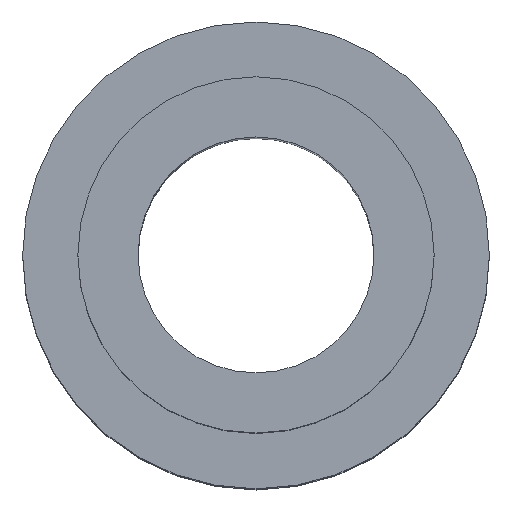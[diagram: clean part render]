
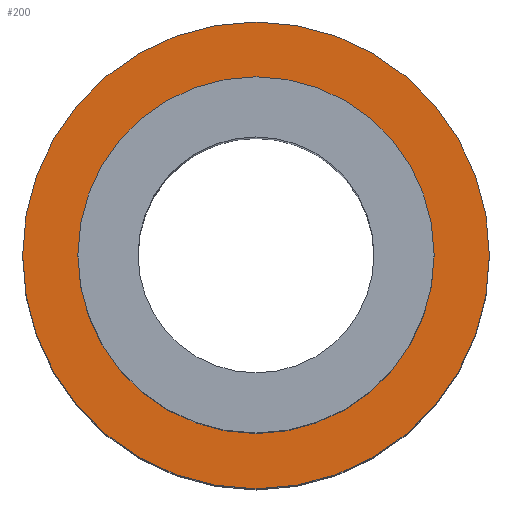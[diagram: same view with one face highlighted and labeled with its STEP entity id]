
A CAD part, top view. The second image highlights one B-rep face of the part: STEP entity #200.
In plain terms, the highlighted planar face has unit normal (0, 0, 1).
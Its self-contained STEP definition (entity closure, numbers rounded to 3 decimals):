
#40=FACE_BOUND('',#83,.T.);
#47=PLANE('',#253);
#61=FACE_OUTER_BOUND('',#82,.T.);
#82=EDGE_LOOP('',(#180));
#83=EDGE_LOOP('',(#181));
#100=CIRCLE('',#252,14.5);
#101=CIRCLE('',#254,19.);
#115=VERTEX_POINT('',#398);
#116=VERTEX_POINT('',#402);
#136=EDGE_CURVE('',#115,#115,#100,.T.);
#138=EDGE_CURVE('',#116,#116,#101,.T.);
#180=ORIENTED_EDGE('',*,*,#138,.F.);
#181=ORIENTED_EDGE('',*,*,#136,.T.);
#200=ADVANCED_FACE('',(#61,#40),#47,.T.);
#252=AXIS2_PLACEMENT_3D('',#399,#316,#317);
#253=AXIS2_PLACEMENT_3D('',#401,#319,#320);
#254=AXIS2_PLACEMENT_3D('',#403,#321,#322);
#316=DIRECTION('center_axis',(0.,0.,-1.));
#317=DIRECTION('ref_axis',(1.,0.,0.));
#319=DIRECTION('center_axis',(0.,0.,1.));
#320=DIRECTION('ref_axis',(1.,0.,0.));
#321=DIRECTION('center_axis',(0.,0.,-1.));
#322=DIRECTION('ref_axis',(1.,0.,0.));
#398=CARTESIAN_POINT('',(-14.5,0.,5.));
#399=CARTESIAN_POINT('Origin',(0.,0.,5.));
#401=CARTESIAN_POINT('Origin',(19.,0.,5.));
#402=CARTESIAN_POINT('',(-19.,0.,5.));
#403=CARTESIAN_POINT('Origin',(0.,0.,5.));
